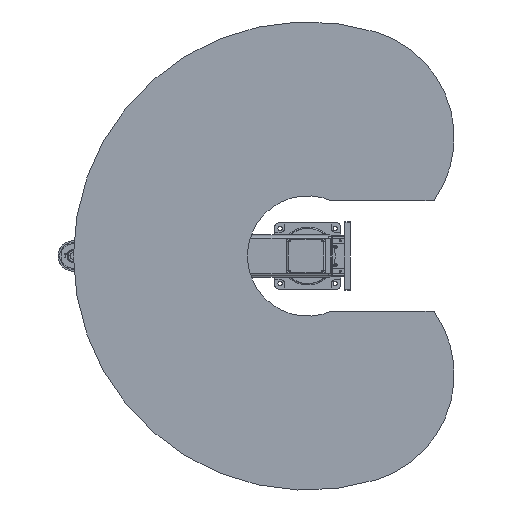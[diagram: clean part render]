
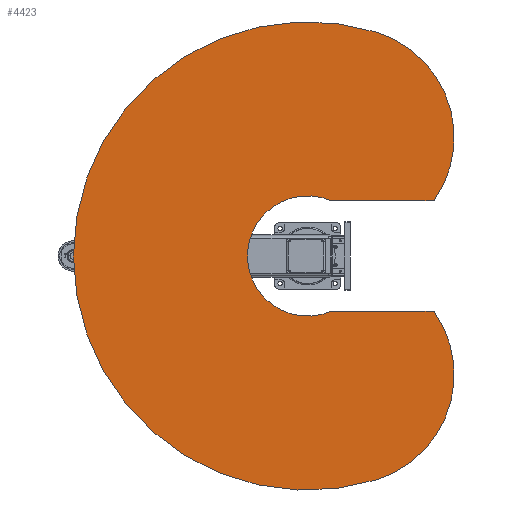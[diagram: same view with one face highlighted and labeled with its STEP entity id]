
A CAD part, front view. The second image highlights one B-rep face of the part: STEP entity #4423.
In plain terms, the highlighted planar face has unit normal (0, -1, 0).
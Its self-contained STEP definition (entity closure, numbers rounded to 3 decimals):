
#4423 = ADVANCED_FACE( '', ( #10721 ), #10722, .F. );
#10721 = FACE_OUTER_BOUND( '', #19697, .T. );
#10722 = PLANE( '', #19698 );
#19697 = EDGE_LOOP( '', ( #33509, #33510, #33511, #33512, #33513, #33514 ) );
#19698 = AXIS2_PLACEMENT_3D( '', #33515, #33516, #33517 );
#33509 = ORIENTED_EDGE( '', *, *, #48788, .F. );
#33510 = ORIENTED_EDGE( '', *, *, #51099, .F. );
#33511 = ORIENTED_EDGE( '', *, *, #51100, .T. );
#33512 = ORIENTED_EDGE( '', *, *, #51101, .F. );
#33513 = ORIENTED_EDGE( '', *, *, #47385, .F. );
#33514 = ORIENTED_EDGE( '', *, *, #50410, .F. );
#33515 = CARTESIAN_POINT( '', ( 430.337, 0., 131.567 ) );
#33516 = DIRECTION( '', ( 0., 1., 0. ) );
#33517 = DIRECTION( '', ( 0., 0., 1. ) );
#47385 = EDGE_CURVE( '', #55619, #55620, #55621, .T. );
#48788 = EDGE_CURVE( '', #58078, #58079, #58080, .T. );
#50410 = EDGE_CURVE( '', #58079, #55619, #60708, .T. );
#51099 = EDGE_CURVE( '', #61759, #58078, #61760, .T. );
#51100 = EDGE_CURVE( '', #61759, #61761, #61762, .T. );
#51101 = EDGE_CURVE( '', #55620, #61761, #61763, .T. );
#55619 = VERTEX_POINT( '', #67754 );
#55620 = VERTEX_POINT( '', #67755 );
#55621 = CIRCLE( '', #67756, 400. );
#58078 = VERTEX_POINT( '', #71876 );
#58079 = VERTEX_POINT( '', #71877 );
#58080 = CIRCLE( '', #71878, 400. );
#60708 = CIRCLE( '', #76022, 850. );
#61759 = VERTEX_POINT( '', #77845 );
#61760 = LINE( '', #77846, #77847 );
#61761 = VERTEX_POINT( '', #77848 );
#61762 = CIRCLE( '', #77849, 218.3 );
#61763 = LINE( '', #77850, #77851 );
#67754 = CARTESIAN_POINT( '', ( -812.859, 0., 248.516 ) );
#67755 = CARTESIAN_POINT( '', ( -200., 0., 458.591 ) );
#67756 = AXIS2_PLACEMENT_3D( '', #86671, #86672, #86673 );
#71876 = CARTESIAN_POINT( '', ( 200., 0., 458.591 ) );
#71877 = CARTESIAN_POINT( '', ( 812.859, 0., 248.516 ) );
#71878 = AXIS2_PLACEMENT_3D( '', #88427, #88428, #88429 );
#76022 = AXIS2_PLACEMENT_3D( '', #90499, #90500, #90501 );
#77845 = CARTESIAN_POINT( '', ( 200., 0., 87.492 ) );
#77846 = CARTESIAN_POINT( '', ( 200., 0., 87.492 ) );
#77847 = VECTOR( '', #91331, 1000. );
#77848 = CARTESIAN_POINT( '', ( -200., 0., 87.492 ) );
#77849 = AXIS2_PLACEMENT_3D( '', #91332, #91333, #91334 );
#77850 = CARTESIAN_POINT( '', ( -200., 0., 458.591 ) );
#77851 = VECTOR( '', #91335, 1000. );
#86671 = CARTESIAN_POINT( '', ( -430.337, 0., 131.567 ) );
#86672 = DIRECTION( '', ( 0., 1., 0. ) );
#86673 = DIRECTION( '', ( 1., 0., 0. ) );
#88427 = CARTESIAN_POINT( '', ( 430.337, 0., 131.567 ) );
#88428 = DIRECTION( '', ( 0., 1., 0. ) );
#88429 = DIRECTION( '', ( 1., 0., 0. ) );
#90499 = CARTESIAN_POINT( '', ( 0., 0., 0. ) );
#90500 = DIRECTION( '', ( 0., 1., 0. ) );
#90501 = DIRECTION( '', ( 1., 0., 0. ) );
#91331 = DIRECTION( '', ( 0., 0., 1. ) );
#91332 = CARTESIAN_POINT( '', ( 0., 0., 0. ) );
#91333 = DIRECTION( '', ( 0., 1., 0. ) );
#91334 = DIRECTION( '', ( 1., 0., 0. ) );
#91335 = DIRECTION( '', ( 0., 0., -1. ) );
